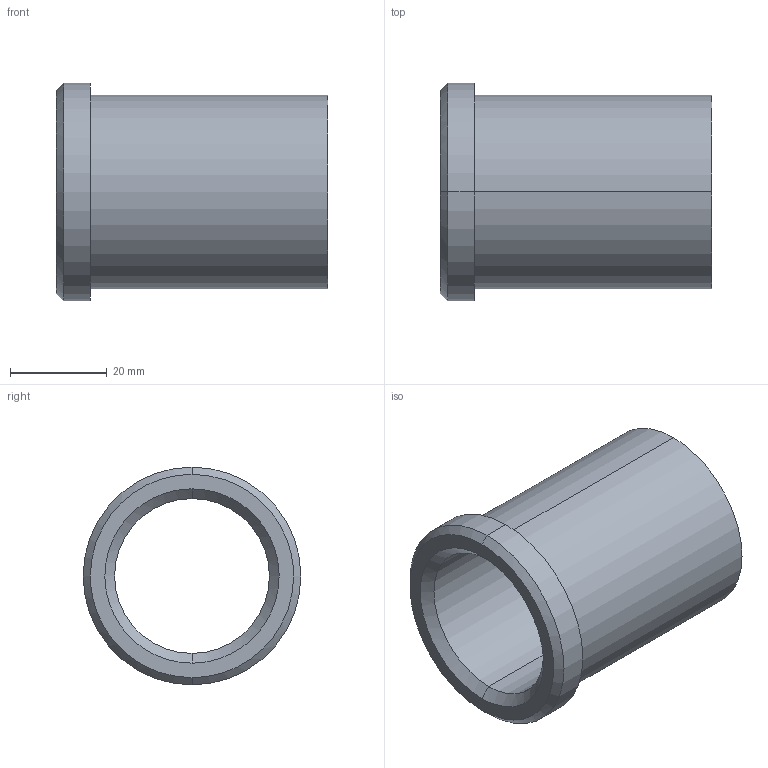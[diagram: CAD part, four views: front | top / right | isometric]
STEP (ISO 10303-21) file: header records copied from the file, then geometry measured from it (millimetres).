
FILE_DESCRIPTION(('CATIA V5 STEP Exchange'),'2;1');
FILE_NAME('C:\Users\Utente\Desktop\IO LAVORO\3D X SITO CF\X SITO\PLASTICA\353\353-32X56.stp','2021-05-12T18:56:09+00:00',('none'),('none'),'CATIA Version 5 Release 20 GA (IN-10)','CATIA V5 STEP AP203','none');
FILE_SCHEMA(('CONFIG_CONTROL_DESIGN'));
Length unit declared in the file: millimetre
Products named in the file (1): 353-32X56
Bounding box: 56 x 45 x 45 mm (x, y, z)
Volume: 27216.7 mm3; surface area: 14025 mm2
Topology: 1 solids, 1 shells, 15 faces, 48 edges, 36 vertices
Faces by surface type: cylinder 6, cone 4, plane 3, torus 2
Entity records: 680 total; most frequent: CARTESIAN_POINT 212, ORIENTED_EDGE 96, DIRECTION 70, EDGE_CURVE 48, AXIS2_PLACEMENT_3D 46, VERTEX_POINT 36, CIRCLE 30, EDGE_LOOP 18
